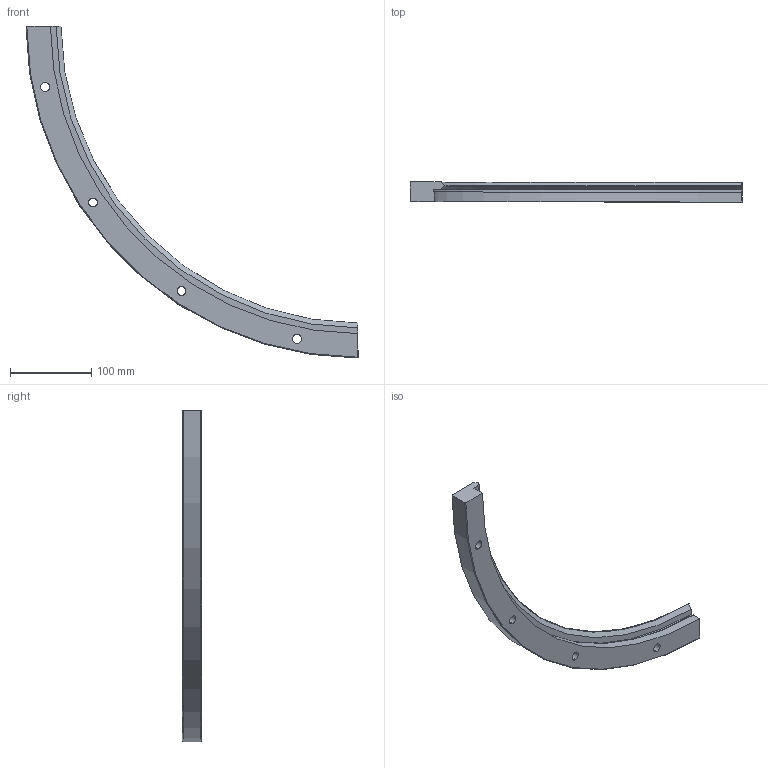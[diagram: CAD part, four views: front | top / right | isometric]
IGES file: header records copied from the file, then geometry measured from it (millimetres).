
Start section: 3D InterOp IGES (v. 2020 1.0.1), Spatial Corp. Copyright (c) 1999-2017.
Global section: file name: ril_820_r90.igs; native system: Spatial Corp.; preprocessor: 3D InterOp ACIS/IGES; author: TraceParts; organization: TraceParts S.A.; date: 20220624.063433; units: millimetre
Bounding box: 408 x 24 x 408 mm (x, y, z)
Surface area: 83174.5 mm2 (no closed solid volume)
Topology: 0 solids, 0 shells, 35 faces, 174 edges, 174 vertices
Faces by surface type: revolution 25, extrusion 10
